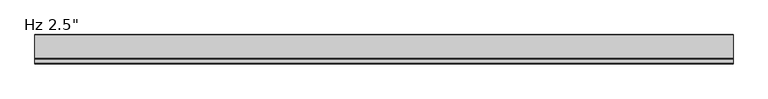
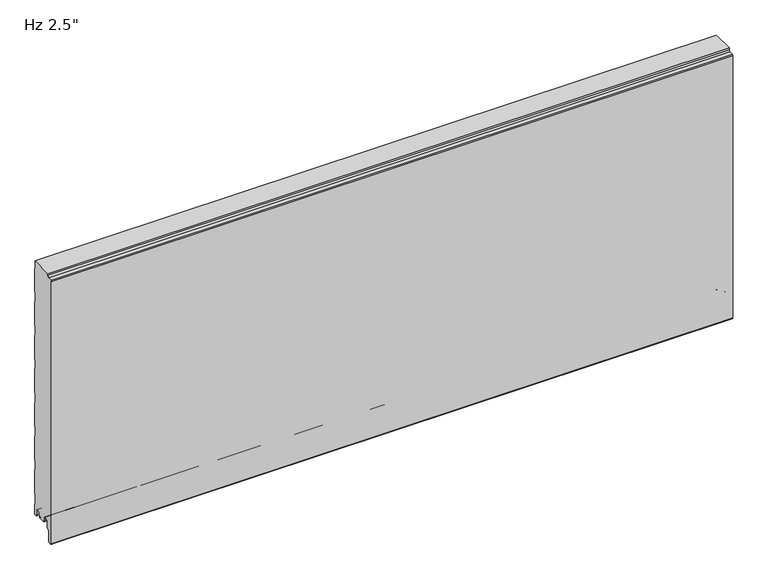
"""IFC4 building model written with IfcOpenShell, lengths in millimetres: plate geometry."""

import ifcopenshell
import ifcopenshell.guid

model = None  # the IFC model being written
_history = None  # IfcOwnerHistory: only IFC2X3 demands one
_inside = {}  # id of a spatial element -> (the spatial element, [elements in it])
_under = {}  # id of a project, library or spatial element -> (it, [spatial elements below it])
_declared = {}  # id of a project -> (the project, [libraries it declares])
_typed = {}  # id of a type object -> (the type object, [elements of that type])
_made_of = {}  # id of a material, layer set ... -> (it, [elements and type objects made of it])


def new_model(schema):
    """Start an empty IFC model of exactly this schema.

    Asked for "IFC4X3", IfcOpenShell would pick the latest addendum, in which some entities
    have other attributes; the version numbers below select the first issue.
    IFC2X3 requires an IfcOwnerHistory on every rooted entity: one is made here for all.
    """
    global model, _history
    if schema == "IFC4X3":
        model = ifcopenshell.file(schema_version=(4, 3, 0, 0))
    else:
        model = ifcopenshell.file(schema=schema)
    _inside.clear()
    _under.clear()
    _declared.clear()
    _typed.clear()
    _made_of.clear()
    _history = None
    if model.schema == "IFC2X3":
        org = make("IfcOrganization", Name="unknown")
        user = make(
            "IfcPersonAndOrganization",
            ThePerson=make("IfcPerson", FamilyName="unknown"),
            TheOrganization=org,
        )
        app = make(
            "IfcApplication",
            ApplicationDeveloper=org,
            Version="unknown",
            ApplicationFullName="unknown",
            ApplicationIdentifier="unknown",
        )
        _history = make(
            "IfcOwnerHistory",
            OwningUser=user,
            OwningApplication=app,
            ChangeAction="ADDED",
            CreationDate=0,
        )
    return model


def make(cls, **values):
    """One entity of the class cls with the attributes given. An attribute that is None is left unset."""
    return model.create_entity(
        cls, **{name: value for name, value in values.items() if value is not None}
    )


def rooted(cls, **values):
    """An entity with a GlobalId (a new one), such as an element, a storey or a relation."""
    return make(cls, GlobalId=ifcopenshell.guid.new(), OwnerHistory=_history, **values)


def si_unit(unit_type, name, prefix=None):
    """IfcSIUnit, for example si_unit("LENGTHUNIT", "METRE", prefix="MILLI")."""
    return make("IfcSIUnit", UnitType=unit_type, Prefix=prefix, Name=name)


def assignment(units):
    """IfcUnitAssignment: the units of a project."""
    return None if units is None else make("IfcUnitAssignment", Units=units)


def point(xyz):
    """IfcCartesianPoint."""
    return None if xyz is None else make("IfcCartesianPoint", Coordinates=xyz)


def direction(xyz):
    """IfcDirection."""
    return None if xyz is None else make("IfcDirection", DirectionRatios=xyz)


def frame(location, z_axis=None, x_axis=None):
    """IfcAxis2Placement3D, a coordinate frame: its origin and axes. An axis left out is left unset."""
    return make(
        "IfcAxis2Placement3D",
        Location=point(location),
        Axis=direction(z_axis),
        RefDirection=direction(x_axis),
    )


def origin():
    """The frame at (0, 0, 0) with its axes left unset."""
    return frame((0.0, 0.0, 0.0))


def place(relative_to, where):
    """IfcLocalPlacement: puts the frame where relative to a parent placement (None: the world)."""
    return make(
        "IfcLocalPlacement", PlacementRelTo=relative_to, RelativePlacement=where
    )


def context(
    kind, dimensions, precision=None, world=None, true_north=None, identifier=None
):
    """IfcGeometricRepresentationContext, for example the 3D "Model" context."""
    return make(
        "IfcGeometricRepresentationContext",
        ContextIdentifier=identifier,
        ContextType=kind,
        CoordinateSpaceDimension=dimensions,
        Precision=precision,
        WorldCoordinateSystem=world,
        TrueNorth=true_north,
    )


def project(units=None, contexts=None):
    """IfcProject with its units and contexts."""
    return rooted(
        "IfcProject",
        Name="project",
        RepresentationContexts=contexts,
        UnitsInContext=assignment(units),
    )


def spatial(cls, under=None, at=None, **own):
    """A site, building, storey or space (cls), placed at a placement, below another one or the project."""
    s = rooted(cls, ObjectPlacement=at, **own)
    if under is not None:
        _under.setdefault(under.id(), (under, []))[1].append(s)
    return s


def polyline(points):
    """IfcPolyline through the points."""
    return make("IfcPolyline", Points=[point(p) for p in points])


def circle_curve(where, radius):
    """IfcCircle in the frame where."""
    return make("IfcCircle", Position=where, Radius=radius)


def shape(context_of_items, identifier, shape_type, items):
    """IfcShapeRepresentation: the items that make up one representation, for example the "Body"."""
    return make(
        "IfcShapeRepresentation",
        ContextOfItems=context_of_items,
        RepresentationIdentifier=identifier,
        RepresentationType=shape_type,
        Items=items,
    )


def source(mapping_origin, context_of_items, identifier, shape_type, items):
    """IfcRepresentationMap: a shape defined once, which mapped items show again and again."""
    return make(
        "IfcRepresentationMap",
        MappingOrigin=mapping_origin,
        MappedRepresentation=shape(context_of_items, identifier, shape_type, items),
    )


def transform(
    local_origin,
    x_axis=None,
    y_axis=None,
    z_axis=None,
    scale=None,
    scale2=None,
    scale3=None,
    uniform=True,
):
    """IfcCartesianTransformationOperator3D, or its non-uniform kind. x_axis, y_axis, z_axis: its Axis1, 2, 3."""
    if uniform:
        return make(
            "IfcCartesianTransformationOperator3D",
            Axis1=direction(x_axis),
            Axis2=direction(y_axis),
            LocalOrigin=point(local_origin),
            Scale=scale,
            Axis3=direction(z_axis),
        )
    return make(
        "IfcCartesianTransformationOperator3DnonUniform",
        Axis1=direction(x_axis),
        Axis2=direction(y_axis),
        LocalOrigin=point(local_origin),
        Scale=scale,
        Axis3=direction(z_axis),
        Scale2=scale2,
        Scale3=scale3,
    )


def mapped(mapping_source, mapping_target):
    """IfcMappedItem: shows the shape of a source again, moved by a transform."""
    return make(
        "IfcMappedItem", MappingSource=mapping_source, MappingTarget=mapping_target
    )


def made_of(thing, what):
    """Note that an element or type object is made of a material, layer set ...; save() writes the relation."""
    if what is not None:
        _made_of.setdefault(what.id(), (what, []))[1].append(thing)
    return thing


def element(
    cls,
    number,
    at=None,
    inside=None,
    cuts=None,
    type_object=None,
    material=None,
    context=None,
    identifier="Body",
    shape_type=None,
    held_by="IfcProductDefinitionShape",
    body=None,
    shapes=None,
    **own,
):
    """One element of the class cls, such as IfcWall. Its Tag is "e" and its number.

    at: its placement. inside: the storey or other place that contains it. cuts: it is an
    opening in that element (IfcRelVoidsElement). A single representation is given by context,
    identifier, shape_type and body (its items); several are given by shapes. held_by: the class
    of the entity that holds the representations. save() writes the other relations.
    """
    e = rooted(cls, Tag="e%d" % number, ObjectPlacement=at, **own)
    if body is not None:
        shapes = [shape(context, identifier, shape_type, body)]
    if shapes is not None:
        e.Representation = make(held_by, Representations=shapes)
    if inside is not None:
        _inside.setdefault(inside.id(), (inside, []))[1].append(e)
    if cuts is not None:
        rooted(
            "IfcRelVoidsElement", RelatingBuildingElement=cuts, RelatedOpeningElement=e
        )
    if type_object is not None:
        _typed.setdefault(type_object.id(), (type_object, []))[1].append(e)
    return made_of(e, material)


def aggregate(whole, parts):
    """IfcRelAggregates: a whole, such as a stair, and the parts it consists of."""
    return rooted("IfcRelAggregates", RelatingObject=whole, RelatedObjects=parts)


def save(model, path):
    """Write the relations noted so far, then the file.

    IfcRelAggregates (storeys below a building ...), IfcRelContainedInSpatialStructure (elements
    in a storey), IfcRelDefinesByType, IfcRelAssociatesMaterial and IfcRelDeclares: one each for
    every whole, place, type object, material and project.
    """
    for whole, parts in _under.values():
        aggregate(whole, parts)
    for where, things in _inside.values():
        rooted(
            "IfcRelContainedInSpatialStructure",
            RelatedElements=things,
            RelatingStructure=where,
        )
    for kind, things in _typed.values():
        rooted("IfcRelDefinesByType", RelatedObjects=things, RelatingType=kind)
    for what, things in _made_of.values():
        rooted("IfcRelAssociatesMaterial", RelatedObjects=things, RelatingMaterial=what)
    for by, libraries in _declared.values():
        rooted("IfcRelDeclares", RelatingContext=by, RelatedDefinitions=libraries)
    model.write(path)


def plane_surface(at):
    """IfcPlane: the flat surface through the origin of the frame at, square to its z axis."""
    return make("IfcPlane", Position=at)


def cylinder_surface(at, radius):
    """IfcCylindricalSurface: all points at the distance radius from the z axis of the frame at."""
    return make("IfcCylindricalSurface", Position=at, Radius=radius)


def revolved_surface(curve, axis_point, axis_direction):
    """IfcSurfaceOfRevolution: the curve turned about the line through axis_point along axis_direction."""
    return make(
        "IfcSurfaceOfRevolution",
        SweptCurve=make("IfcArbitraryOpenProfileDef", ProfileType="CURVE", Curve=curve),
        AxisPosition=make("IfcAxis1Placement", Location=point(axis_point), Axis=direction(axis_direction)),
    )


def advanced_brep(points, edges, surfaces, faces):
    """IfcAdvancedBrep: a solid bounded by faces that lie on surfaces and meet in shared edges.

    An edge is (start, end): straight between two places in points (the first is 0);
    or (start, end, curve); or (start, end, curve, False) where it runs against its curve.
    A face is (place in surfaces, loops), or (place, loops, False) where it looks against
    its surface's normal. A loop lists edges by number (the first is 1), with a minus sign
    where the edge is run from its end to its start. The first loop is the outer one.
    """
    corners = [point(p) for p in points]
    vertices = [make("IfcVertexPoint", VertexGeometry=c) for c in corners]
    made = []
    for start, end, *more in edges:
        made.append(
            make(
                "IfcEdgeCurve",
                EdgeStart=vertices[start],
                EdgeEnd=vertices[end],
                EdgeGeometry=more[0] if more else make("IfcPolyline", Points=[corners[start], corners[end]]),
                SameSense=more[1] if len(more) > 1 else True,
            )
        )
    hull = []
    for where, loops, *sense in faces:
        bounds = []
        for j, loop in enumerate(loops):
            ring = [make("IfcOrientedEdge", EdgeElement=made[abs(k) - 1], Orientation=k > 0) for k in loop]
            bounds.append(
                make(
                    "IfcFaceOuterBound" if j == 0 else "IfcFaceBound",
                    Bound=make("IfcEdgeLoop", EdgeList=ring),
                    Orientation=True,
                )
            )
        hull.append(make("IfcAdvancedFace", Bounds=bounds, FaceSurface=surfaces[where], SameSense=sense[0] if sense else True))
    return make("IfcAdvancedBrep", Outer=make("IfcClosedShell", CfsFaces=hull))


def plate_73322cd4(model_context):
    return source(origin(), model_context, "Body", "AdvancedBrep", [
        advanced_brep(
        [(-730.0, -35.1708959, 1.0316999), (-730.0, -34.0014212, 2.2328239), (-730.0, -34.0014212, 5.9912173), (-730.0, -35.3999001, 5.9912173), (-730.0, -35.3999001, 8.6903283), (-730.0, -38.7498954, 12.0403236), (-730.0, -43.1498866, 12.0403236), (-730.0, -46.4998819, 8.6903283), (-730.0, -46.4998819, -3.1205608), (-730.0, -46.9977988, -4.3226385), (-730.0, -52.4998699, -9.8247096), (-730.0, -52.4998699, -31.9198392), (-730.0, -54.7184719, -34.5765709), (-730.0, -59.7002927, -35.0125699), (-730.0, -62.4946177, -32.4521176), (-730.0, -62.5000209, 561.115622), (-730.0, -60.7149468, 563.0669057), (-730.0, -52.25397, 563.821161), (-730.0, -49.4906671, 566.9653654), (-730.0, -49.4906671, 571.2), (-730.0, -2.2002516, 571.2), (-730.0, -2.2002516, 555.8186019), (-730.0, -1.0000209, 554.4329689), (-730.0, -1.0000209, 500.3795535), (-730.0, -2.2002516, 498.9939206), (-730.0, -2.2002516, 479.6187543), (-730.0, -1.0000209, 478.2331213), (-730.0, -1.0000209, 424.1797059), (-730.0, -2.2002516, 422.794073), (-730.0, -2.2002516, 403.4189067), (-730.0, -1.0000209, 402.0332737), (-730.0, -1.0000209, 347.9798583), (-730.0, -2.2002516, 346.5942254), (-730.0, -2.2002516, 327.2190591), (-730.0, -1.0000209, 325.8334261), (-730.0, -1.0000209, 271.7800107), (-730.0, -2.2002516, 270.3943778), (-730.0, -2.2002516, 251.0192115), (-730.0, -1.0000209, 249.6335785), (-730.0, -1.0000209, 195.5801631), (-730.0, -2.2002516, 194.1945302), (-730.0, -2.2002516, 174.8193639), (-730.0, -1.0000209, 173.4337309), (-730.0, -1.0000209, 119.3803155), (-730.0, -2.2002516, 117.9946826), (-730.0, -2.2002516, 98.6195163), (-730.0, -1.0000209, 97.2338833), (-730.0, -1.0000209, 43.1804679), (-730.0, -2.2002516, 41.794835), (-730.0, -2.2002516, 22.4196687), (-730.0, -1.0000126, 21.034026), (-730.0, -1.0000126, -3.4662506), (-730.0, -5.2315599, -3.4662506), (-730.0, -7.001554, -1.6962564), (-730.0, -7.001554, 8.7237222), (-730.0, -10.3015499, 12.023718), (-730.0, -14.7015411, 12.023718), (-730.0, -18.0015368, 8.7237223), (-730.0, -18.0015368, 6.0315125), (-730.0, -19.0015314, 6.0315125), (-730.0, -19.0015314, 2.0313089), (-730.0, -18.0015401, 1.0313117), (-730.0, -19.0328517, 0.0), (-730.0, -34.139196, 0.0), (730.0, -35.1708959, 1.0316999), (730.0, -34.139196, 0.0), (730.0, -19.0328517, 0.0), (730.0, -18.0015401, 1.0313117), (730.0, -19.0015314, 2.0313089), (730.0, -19.0015314, 6.0315125), (730.0, -18.0015368, 6.0315125), (730.0, -18.0015368, 8.7237223), (730.0, -14.7015411, 12.023718), (730.0, -10.3015499, 12.023718), (730.0, -7.001554, 8.7237222), (730.0, -7.001554, -1.6962564), (730.0, -5.2315599, -3.4662506), (730.0, -1.0000126, -3.4662506), (730.0, -1.0000126, 21.034026), (730.0, -2.2002516, 22.4196687), (730.0, -2.2002516, 41.794835), (730.0, -1.0000209, 43.1804679), (730.0, -1.0000209, 97.2338833), (730.0, -2.2002516, 98.6195163), (730.0, -2.2002516, 117.9946826), (730.0, -1.0000209, 119.3803155), (730.0, -1.0000209, 173.4337309), (730.0, -2.2002516, 174.8193639), (730.0, -2.2002516, 194.1945302), (730.0, -1.0000209, 195.5801631), (730.0, -1.0000209, 249.6335785), (730.0, -2.2002516, 251.0192115), (730.0, -2.2002516, 270.3943778), (730.0, -1.0000209, 271.7800107), (730.0, -1.0000209, 325.8334261), (730.0, -2.2002516, 327.2190591), (730.0, -2.2002516, 346.5942254), (730.0, -1.0000209, 347.9798583), (730.0, -1.0000209, 402.0332737), (730.0, -2.2002516, 403.4189067), (730.0, -2.2002516, 422.794073), (730.0, -1.0000209, 424.1797059), (730.0, -1.0000209, 478.2331213), (730.0, -2.2002516, 479.6187543), (730.0, -2.2002516, 498.9939206), (730.0, -1.0000209, 500.3795535), (730.0, -1.0000209, 554.4329689), (730.0, -2.2002516, 555.8186019), (730.0, -2.2002516, 571.2), (730.0, -49.4906671, 571.2), (730.0, -49.4906671, 566.9653654), (730.0, -52.25397, 563.821161), (730.0, -60.7149468, 563.0669057), (730.0, -62.5000209, 561.115622), (730.0, -62.5000209, -32.4521176), (730.0, -59.7002927, -35.0125699), (730.0, -54.7184719, -34.5765709), (730.0, -52.4998699, -31.9198392), (730.0, -52.4998699, -9.8247096), (730.0, -46.9977988, -4.3226385), (730.0, -46.4998819, -3.1205608), (730.0, -46.4998819, 8.6903283), (730.0, -43.1498866, 12.0403236), (730.0, -38.7498954, 12.0403236), (730.0, -35.3999001, 8.6903283), (730.0, -35.3999001, 5.9912173), (730.0, -34.0014212, 5.9912173), (730.0, -34.0014212, 2.2328239)],
        [
            (0, 1, circle_curve(frame((-730.0, -35.2014178, 2.2313092), z_axis=(1.0, 0.0, 0.0), x_axis=(0.0, 0.0, -1.0)), 1.1999976)),
            (1, 2),
            (2, 3),
            (3, 4),
            (4, 5, circle_curve(frame((-730.0, -38.7498954, 8.6903283), z_axis=(1.0, 0.0, 0.0), x_axis=(0.0, 0.0, -1.0)), 3.3499953)),
            (5, 6),
            (6, 7, circle_curve(frame((-730.0, -43.1498866, 8.6903283), z_axis=(1.0, 0.0, 0.0), x_axis=(0.0, 0.0, -1.0)), 3.3499953)),
            (7, 8),
            (8, 9, circle_curve(frame((-730.0, -48.1998765, -3.1205608), z_axis=(-1.0, 0.0, 0.0), x_axis=(0.0, 0.0, -1.0)), 1.6999946)),
            (9, 10),
            (10, 11),
            (11, 12, circle_curve(frame((-730.0, -55.1998625, -31.9198392), z_axis=(-1.0, 0.0, 0.0), x_axis=(0.0, 0.0, -1.0)), 2.6999926)),
            (12, 13),
            (13, 14, circle_curve(frame((-730.0, -59.9243784, -32.4521176), z_axis=(-1.0, 0.0, 0.0), x_axis=(0.0, 0.0, -1.0)), 2.5702393)),
            (14, 15),
            (15, 16, circle_curve(frame((-730.0, -60.5409993, 561.115622), z_axis=(-1.0, 0.0, 0.0), x_axis=(0.0, 0.0, -1.0)), 1.9590216)),
            (16, 17),
            (17, 18, circle_curve(frame((-730.0, -52.518053, 566.8396267), z_axis=(1.0, 0.0, 0.0), x_axis=(0.0, 0.0, -1.0)), 3.0299959)),
            (18, 19),
            (19, 20),
            (20, 21),
            (21, 22),
            (22, 23),
            (23, 24),
            (24, 25),
            (25, 26),
            (26, 27),
            (27, 28),
            (28, 29),
            (29, 30),
            (30, 31),
            (31, 32),
            (32, 33),
            (33, 34),
            (34, 35),
            (35, 36),
            (36, 37),
            (37, 38),
            (38, 39),
            (39, 40),
            (40, 41),
            (41, 42),
            (42, 43),
            (43, 44),
            (44, 45),
            (45, 46),
            (46, 47),
            (47, 48),
            (48, 49),
            (49, 50),
            (50, 51),
            (51, 52),
            (52, 53, circle_curve(frame((-730.0, -5.2315599, -1.6962564), z_axis=(-1.0, 0.0, 0.0), x_axis=(0.0, 0.0, 1.0)), 1.7699942)),
            (53, 54),
            (54, 55, circle_curve(frame((-730.0, -10.3015499, 8.7237222), z_axis=(1.0, 0.0, 0.0), x_axis=(0.0, 0.0, 1.0)), 3.2999959)),
            (55, 56),
            (56, 57, circle_curve(frame((-730.0, -14.7015411, 8.7237223), z_axis=(1.0, 0.0, 0.0), x_axis=(0.0, 0.0, 1.0)), 3.2999957)),
            (57, 58),
            (58, 59),
            (59, 60),
            (60, 61, circle_curve(frame((-730.0, -18.0015342, 2.0313089), z_axis=(1.0, 0.0, 0.0), x_axis=(0.0, 0.0, 1.0)), 0.9999972)),
            (61, 62),
            (62, 63),
            (63, 0),
            (64, 65),
            (65, 66),
            (66, 67),
            (67, 68, circle_curve(frame((730.0, -18.0015342, 2.0313089), z_axis=(-1.0, 0.0, 0.0), x_axis=(0.0, 0.0, 1.0)), 0.9999972)),
            (68, 69),
            (69, 70),
            (70, 71),
            (71, 72, circle_curve(frame((730.0, -14.7015411, 8.7237223), z_axis=(-1.0, 0.0, 0.0), x_axis=(0.0, 0.0, 1.0)), 3.2999957)),
            (72, 73),
            (73, 74, circle_curve(frame((730.0, -10.3015499, 8.7237222), z_axis=(-1.0, 0.0, 0.0), x_axis=(0.0, 0.0, 1.0)), 3.2999959)),
            (74, 75),
            (75, 76, circle_curve(frame((730.0, -5.2315599, -1.6962564), z_axis=(1.0, 0.0, 0.0), x_axis=(0.0, 0.0, 1.0)), 1.7699942)),
            (76, 77),
            (77, 78),
            (78, 79),
            (79, 80),
            (80, 81),
            (81, 82),
            (82, 83),
            (83, 84),
            (84, 85),
            (85, 86),
            (86, 87),
            (87, 88),
            (88, 89),
            (89, 90),
            (90, 91),
            (91, 92),
            (92, 93),
            (93, 94),
            (94, 95),
            (95, 96),
            (96, 97),
            (97, 98),
            (98, 99),
            (99, 100),
            (100, 101),
            (101, 102),
            (102, 103),
            (103, 104),
            (104, 105),
            (105, 106),
            (106, 107),
            (107, 108),
            (108, 109),
            (109, 110),
            (110, 111, circle_curve(frame((730.0, -52.518053, 566.8396267), z_axis=(-1.0, 0.0, 0.0), x_axis=(0.0, 0.0, -1.0)), 3.0299959)),
            (111, 112),
            (112, 113, circle_curve(frame((730.0, -60.5409993, 561.115622), z_axis=(1.0, 0.0, 0.0), x_axis=(0.0, 0.0, -1.0)), 1.9590216)),
            (113, 114),
            (114, 115, circle_curve(frame((730.0, -59.9243784, -32.4521176), z_axis=(1.0, 0.0, 0.0), x_axis=(0.0, 0.0, -1.0)), 2.5702393)),
            (115, 116),
            (116, 117, circle_curve(frame((730.0, -55.1998625, -31.9198392), z_axis=(1.0, 0.0, 0.0), x_axis=(0.0, 0.0, -1.0)), 2.6999926)),
            (117, 118),
            (118, 119),
            (119, 120, circle_curve(frame((730.0, -48.1998765, -3.1205608), z_axis=(1.0, 0.0, 0.0), x_axis=(0.0, 0.0, -1.0)), 1.6999946)),
            (120, 121),
            (121, 122, circle_curve(frame((730.0, -43.1498866, 8.6903283), z_axis=(-1.0, 0.0, 0.0), x_axis=(0.0, 0.0, -1.0)), 3.3499953)),
            (122, 123),
            (123, 124, circle_curve(frame((730.0, -38.7498954, 8.6903283), z_axis=(-1.0, 0.0, 0.0), x_axis=(0.0, 0.0, -1.0)), 3.3499953)),
            (124, 125),
            (125, 126),
            (126, 127),
            (127, 64, circle_curve(frame((730.0, -35.2014178, 2.2313092), z_axis=(-1.0, 0.0, 0.0), x_axis=(0.0, 0.0, -1.0)), 1.1999976)),
            (63, 65),
            (64, 0),
            (62, 66),
            (14, 114),
            (113, 15),
            (13, 115),
            (12, 116),
            (11, 117),
            (10, 118),
            (9, 119),
            (8, 120),
            (7, 121),
            (6, 122),
            (5, 123),
            (4, 124),
            (3, 125),
            (2, 126),
            (1, 127),
            (61, 67),
            (60, 68),
            (59, 69),
            (58, 70),
            (57, 71),
            (56, 72),
            (55, 73),
            (54, 74),
            (53, 75),
            (52, 76),
            (51, 77),
            (49, 79),
            (78, 50),
            (48, 80),
            (47, 81),
            (46, 82),
            (45, 83),
            (44, 84),
            (43, 85),
            (42, 86),
            (41, 87),
            (40, 88),
            (39, 89),
            (38, 90),
            (37, 91),
            (36, 92),
            (35, 93),
            (34, 94),
            (33, 95),
            (32, 96),
            (31, 97),
            (30, 98),
            (19, 109),
            (108, 20),
            (18, 110),
            (17, 111),
            (16, 112),
            (29, 99),
            (28, 100),
            (27, 101),
            (26, 102),
            (25, 103),
            (24, 104),
            (23, 105),
            (22, 106),
            (21, 107),
        ],
        [
            plane_surface(frame((-730.0, -62.5000209, 304.8), z_axis=(-1.0, 0.0, 0.0), x_axis=(0.0, -1.0, 0.0))),
            plane_surface(frame((730.0, -62.5000209, 304.8), z_axis=(1.0, 0.0, 0.0), x_axis=(0.0, -1.0, 0.0))),
            plane_surface(frame((-730.0, -35.1708959, 1.0316999), z_axis=(0.0, -0.7071067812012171, -0.707106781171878), x_axis=(1.0, 0.0, 0.0))),
            plane_surface(frame((-730.0, -34.139196, 0.0), z_axis=(0.0, 0.0, -1.0), x_axis=(1.0, 0.0, 0.0))),
            plane_surface(frame((-730.0, -62.5000209, 561.115622), z_axis=(0.0, -1.0, 0.0), x_axis=(1.0, 0.0, 0.0))),
            cylinder_surface(frame((-730.0, -59.9243784, -32.4521176), z_axis=(-1.0, 0.0, 0.0), x_axis=(0.0, 0.0, -1.0)), 2.5702393),
            plane_surface(frame((-730.0, -59.7002927, -35.0125699), z_axis=(0.0, 0.08718474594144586, -0.9961921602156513), x_axis=(1.0, 0.0, 0.0))),
            cylinder_surface(frame((-730.0, -55.1998625, -31.9198392), z_axis=(-1.0, 0.0, 0.0), x_axis=(0.0, 0.0, -1.0)), 2.6999926),
            plane_surface(frame((-730.0, -52.4998699, -31.9198392), z_axis=(0.0, 1.0, 0.0), x_axis=(1.0, 0.0, 0.0))),
            plane_surface(frame((-730.0, -52.4998699, -9.8247096), z_axis=(0.0, 0.7071067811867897, -0.7071067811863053), x_axis=(1.0, 0.0, 0.0))),
            cylinder_surface(frame((-730.0, -48.1998765, -3.1205608), z_axis=(-1.0, 0.0, 0.0), x_axis=(0.0, 0.0, -1.0)), 1.6999946),
            plane_surface(frame((-730.0, -46.4998819, -3.1205608), z_axis=(0.0, 1.0, 0.0), x_axis=(1.0, 0.0, 0.0))),
            revolved_surface(polyline([(730.0, -43.1498866, 5.340332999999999), (-730.0, -43.1498866, 5.340332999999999)]), (-730.0, -43.1498866, 8.6903283), (1.0, 0.0, 0.0)),
            plane_surface(frame((-730.0, -43.1498866, 12.0403236), z_axis=(0.0, 0.0, -1.0), x_axis=(1.0, 0.0, 0.0))),
            revolved_surface(polyline([(730.0, -38.7498954, 5.340332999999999), (-730.0, -38.7498954, 5.340332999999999)]), (-730.0, -38.7498954, 8.6903283), (1.0, 0.0, 0.0)),
            plane_surface(frame((-730.0, -35.3999001, 8.6903283), z_axis=(0.0, -1.0, 0.0), x_axis=(1.0, 0.0, 0.0))),
            plane_surface(frame((-730.0, -35.3999001, 5.9912173), z_axis=(0.0, 0.0, -1.0), x_axis=(1.0, 0.0, 0.0))),
            plane_surface(frame((-730.0, -34.0014212, 5.9912173), z_axis=(0.0, -1.0, 0.0), x_axis=(1.0, 0.0, 0.0))),
            revolved_surface(polyline([(730.0, -35.2014178, 1.0313116), (-730.0, -35.2014178, 1.0313116)]), (-730.0, -35.2014178, 2.2313092), (1.0, 0.0, 0.0)),
            plane_surface(frame((-730.0, -19.0328517, 0.0), z_axis=(0.0, 0.7071067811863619, -0.7071067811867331), x_axis=(1.0, 0.0, 0.0))),
            revolved_surface(polyline([(730.0, -18.0015342, 3.0313061), (-730.0, -18.0015342, 3.0313061)]), (-730.0, -18.0015342, 2.0313089), (1.0, 0.0, 0.0)),
            plane_surface(frame((-730.0, -19.0015314, 2.0313089), z_axis=(0.0, 1.0, 0.0), x_axis=(1.0, 0.0, 0.0))),
            plane_surface(frame((-730.0, -19.0015314, 6.0315125), z_axis=(0.0, 0.0, -1.0), x_axis=(1.0, 0.0, 0.0))),
            plane_surface(frame((-730.0, -18.0015368, 6.0315125), z_axis=(0.0, 1.0, 0.0), x_axis=(1.0, 0.0, 0.0))),
            revolved_surface(polyline([(730.0, -14.7015411, 12.023718), (-730.0, -14.7015411, 12.023718)]), (-730.0, -14.7015411, 8.7237223), (1.0, 0.0, 0.0)),
            plane_surface(frame((-730.0, -14.7015411, 12.023718), z_axis=(0.0, 0.0, -1.0), x_axis=(1.0, 0.0, 0.0))),
            revolved_surface(polyline([(730.0, -10.3015499, 12.0237181), (-730.0, -10.3015499, 12.0237181)]), (-730.0, -10.3015499, 8.7237222), (1.0, 0.0, 0.0)),
            plane_surface(frame((-730.0, -7.001554, 8.7237222), z_axis=(0.0, -1.0, 0.0), x_axis=(1.0, 0.0, 0.0))),
            cylinder_surface(frame((-730.0, -5.2315599, -1.6962564), z_axis=(-1.0, 0.0, 0.0), x_axis=(0.0, 0.0, 1.0)), 1.7699942),
            plane_surface(frame((-730.0, -5.2315599, -3.4662506), z_axis=(0.0, 0.0, -1.0), x_axis=(1.0, 0.0, 0.0))),
            plane_surface(frame((-730.0, -1.0000126, 21.034026), z_axis=(0.0, 0.7558648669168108, 0.6547276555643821), x_axis=(1.0, 0.0, 0.0))),
            plane_surface(frame((-730.0, -1.0000126, -3.4662506), z_axis=(0.0, 1.0, 0.0), x_axis=(1.0, 0.0, 0.0))),
            plane_surface(frame((-730.0, -2.2002516, 22.4196687), z_axis=(0.0, 1.0, 0.0), x_axis=(1.0, 0.0, 0.0))),
            plane_surface(frame((-730.0, -2.2002516, 41.794835), z_axis=(0.0, 0.7558648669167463, -0.6547276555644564), x_axis=(1.0, 0.0, 0.0))),
            plane_surface(frame((-730.0, -1.0000209, 43.1804679), z_axis=(0.0, 1.0, 0.0), x_axis=(1.0, 0.0, 0.0))),
            plane_surface(frame((-730.0, -1.0000209, 97.2338833), z_axis=(0.0, 0.7558648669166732, 0.6547276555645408), x_axis=(1.0, 0.0, 0.0))),
            plane_surface(frame((-730.0, -2.2002516, 98.6195163), z_axis=(0.0, 1.0, 0.0), x_axis=(1.0, 0.0, 0.0))),
            plane_surface(frame((-730.0, -2.2002516, 117.9946826), z_axis=(0.0, 0.7558648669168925, -0.6547276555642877), x_axis=(1.0, 0.0, 0.0))),
            plane_surface(frame((-730.0, -1.0000209, 119.3803155), z_axis=(0.0, 1.0, 0.0), x_axis=(1.0, 0.0, 0.0))),
            plane_surface(frame((-730.0, -1.0000209, 173.4337309), z_axis=(0.0, 0.7558648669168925, 0.6547276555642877), x_axis=(1.0, 0.0, 0.0))),
            plane_surface(frame((-730.0, -2.2002516, 174.8193639), z_axis=(0.0, 1.0, 0.0), x_axis=(1.0, 0.0, 0.0))),
            plane_surface(frame((-730.0, -2.2002516, 194.1945302), z_axis=(0.0, 0.7558648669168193, -0.6547276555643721), x_axis=(1.0, 0.0, 0.0))),
            plane_surface(frame((-730.0, -1.0000209, 195.5801631), z_axis=(0.0, 1.0, 0.0), x_axis=(1.0, 0.0, 0.0))),
            plane_surface(frame((-730.0, -1.0000209, 249.6335785), z_axis=(0.0, 0.7558648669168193, 0.6547276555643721), x_axis=(1.0, 0.0, 0.0))),
            plane_surface(frame((-730.0, -2.2002516, 251.0192115), z_axis=(0.0, 1.0, 0.0), x_axis=(1.0, 0.0, 0.0))),
            plane_surface(frame((-730.0, -2.2002516, 270.3943778), z_axis=(0.0, 0.7558648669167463, -0.6547276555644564), x_axis=(1.0, 0.0, 0.0))),
            plane_surface(frame((-730.0, -1.0000209, 271.7800107), z_axis=(0.0, 1.0, 0.0), x_axis=(1.0, 0.0, 0.0))),
            plane_surface(frame((-730.0, -1.0000209, 325.8334261), z_axis=(0.0, 0.7558648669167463, 0.6547276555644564), x_axis=(1.0, 0.0, 0.0))),
            plane_surface(frame((-730.0, -2.2002516, 327.2190591), z_axis=(0.0, 1.0, 0.0), x_axis=(1.0, 0.0, 0.0))),
            plane_surface(frame((-730.0, -2.2002516, 346.5942254), z_axis=(0.0, 0.7558648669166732, -0.6547276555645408), x_axis=(1.0, 0.0, 0.0))),
            plane_surface(frame((-730.0, -1.0000209, 347.9798583), z_axis=(0.0, 1.0, 0.0), x_axis=(1.0, 0.0, 0.0))),
            plane_surface(frame((730.0, 9.9999791, 571.2), z_axis=(0.0, 0.0, 1.0), x_axis=(-1.0, 0.0, 0.0))),
            plane_surface(frame((-730.0, -49.4906671, 577.0583308), z_axis=(0.0, -1.0, 0.0), x_axis=(1.0, 0.0, 0.0))),
            revolved_surface(polyline([(730.0, -52.518053, 563.8096308), (-730.0, -52.518053, 563.8096308)]), (-730.0, -52.518053, 566.8396267), (1.0, 0.0, 0.0)),
            plane_surface(frame((-730.0, -52.25397, 563.821161), z_axis=(0.0, -0.08879306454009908, 0.9960500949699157), x_axis=(1.0, 0.0, 0.0))),
            cylinder_surface(frame((-730.0, -60.5409993, 561.115622), z_axis=(-1.0, 0.0, 0.0), x_axis=(0.0, 0.0, -1.0)), 1.9590216),
            plane_surface(frame((-730.0, -1.0000209, 402.0332737), z_axis=(0.0, 0.7558648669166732, 0.6547276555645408), x_axis=(1.0, 0.0, 0.0))),
            plane_surface(frame((-730.0, -2.2002516, 403.4189067), z_axis=(0.0, 1.0, 0.0), x_axis=(1.0, 0.0, 0.0))),
            plane_surface(frame((-730.0, -2.2002516, 422.794073), z_axis=(0.0, 0.755864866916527, -0.6547276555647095), x_axis=(1.0, 0.0, 0.0))),
            plane_surface(frame((-730.0, -1.0000209, 424.1797059), z_axis=(0.0, 1.0, 0.0), x_axis=(1.0, 0.0, 0.0))),
            plane_surface(frame((-730.0, -1.0000209, 478.2331213), z_axis=(0.0, 0.755864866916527, 0.6547276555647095), x_axis=(1.0, 0.0, 0.0))),
            plane_surface(frame((-730.0, -2.2002516, 479.6187543), z_axis=(0.0, 1.0, 0.0), x_axis=(1.0, 0.0, 0.0))),
            plane_surface(frame((-730.0, -2.2002516, 498.9939206), z_axis=(0.0, 0.755864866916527, -0.6547276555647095), x_axis=(1.0, 0.0, 0.0))),
            plane_surface(frame((-730.0, -1.0000209, 500.3795535), z_axis=(0.0, 1.0, 0.0), x_axis=(1.0, 0.0, 0.0))),
            plane_surface(frame((-730.0, -1.0000209, 554.4329689), z_axis=(0.0, 0.755864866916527, 0.6547276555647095), x_axis=(1.0, 0.0, 0.0))),
            plane_surface(frame((-730.0, -2.2002516, 555.8186019), z_axis=(0.0, 1.0, 0.0), x_axis=(1.0, 0.0, 0.0))),
        ],
        [
            (0, [[1, 2, 3, 4, 5, 6, 7, 8, 9, 10, 11, 12, 13, 14, 15, 16, 17, 18, 19, 20, 21, 22, 23, 24, 25, 26, 27, 28, 29, 30, 31, 32, 33, 34, 35, 36, 37, 38, 39, 40, 41, 42, 43, 44, 45, 46, 47, 48, 49, 50, 51, 52, 53, 54, 55, 56, 57, 58, 59, 60, 61, 62, 63, 64]]),
            (1, [[65, 66, 67, 68, 69, 70, 71, 72, 73, 74, 75, 76, 77, 78, 79, 80, 81, 82, 83, 84, 85, 86, 87, 88, 89, 90, 91, 92, 93, 94, 95, 96, 97, 98, 99, 100, 101, 102, 103, 104, 105, 106, 107, 108, 109, 110, 111, 112, 113, 114, 115, 116, 117, 118, 119, 120, 121, 122, 123, 124, 125, 126, 127, 128]]),
            (2, [[129, -65, 130, -64]]),
            (3, [[-63, 131, -66, -129]]),
            (4, [[132, -114, 133, -15]]),
            (5, [[134, -115, -132, -14]]),
            (6, [[135, -116, -134, -13]]),
            (7, [[136, -117, -135, -12]]),
            (8, [[137, -118, -136, -11]]),
            (9, [[138, -119, -137, -10]]),
            (10, [[139, -120, -138, -9]]),
            (11, [[140, -121, -139, -8]]),
            (12, [[141, -122, -140, -7]]),
            (13, [[142, -123, -141, -6]]),
            (14, [[143, -124, -142, -5]]),
            (15, [[144, -125, -143, -4]]),
            (16, [[145, -126, -144, -3]]),
            (17, [[146, -127, -145, -2]]),
            (18, [[-130, -128, -146, -1]]),
            (19, [[147, -67, -131, -62]]),
            (20, [[148, -68, -147, -61]]),
            (21, [[149, -69, -148, -60]]),
            (22, [[150, -70, -149, -59]]),
            (23, [[151, -71, -150, -58]]),
            (24, [[152, -72, -151, -57]]),
            (25, [[153, -73, -152, -56]]),
            (26, [[154, -74, -153, -55]]),
            (27, [[155, -75, -154, -54]]),
            (28, [[156, -76, -155, -53]]),
            (29, [[157, -77, -156, -52]]),
            (30, [[158, -79, 159, -50]]),
            (31, [[-159, -78, -157, -51]]),
            (32, [[160, -80, -158, -49]]),
            (33, [[161, -81, -160, -48]]),
            (34, [[162, -82, -161, -47]]),
            (35, [[163, -83, -162, -46]]),
            (36, [[164, -84, -163, -45]]),
            (37, [[165, -85, -164, -44]]),
            (38, [[166, -86, -165, -43]]),
            (39, [[167, -87, -166, -42]]),
            (40, [[168, -88, -167, -41]]),
            (41, [[169, -89, -168, -40]]),
            (42, [[170, -90, -169, -39]]),
            (43, [[171, -91, -170, -38]]),
            (44, [[172, -92, -171, -37]]),
            (45, [[173, -93, -172, -36]]),
            (46, [[174, -94, -173, -35]]),
            (47, [[175, -95, -174, -34]]),
            (48, [[176, -96, -175, -33]]),
            (49, [[177, -97, -176, -32]]),
            (50, [[178, -98, -177, -31]]),
            (51, [[179, -109, 180, -20]]),
            (52, [[-110, -179, -19, 181]]),
            (53, [[182, -111, -181, -18]]),
            (54, [[183, -112, -182, -17]]),
            (55, [[-133, -113, -183, -16]]),
            (56, [[184, -99, -178, -30]]),
            (57, [[185, -100, -184, -29]]),
            (58, [[186, -101, -185, -28]]),
            (59, [[187, -102, -186, -27]]),
            (60, [[188, -103, -187, -26]]),
            (61, [[189, -104, -188, -25]]),
            (62, [[190, -105, -189, -24]]),
            (63, [[191, -106, -190, -23]]),
            (64, [[192, -107, -191, -22]]),
            (65, [[-21, -180, -108, -192]]),
        ],
    ),
    ])


if __name__ == "__main__":
    model = new_model("IFC4")
    model_context = context("Model", 3, world=origin())
    ifc_project = project(units=[si_unit("LENGTHUNIT", "METRE", prefix="MILLI")], contexts=[model_context])
    site = spatial("IfcSite", under=ifc_project)
    building = spatial("IfcBuilding", under=site)
    placement = place(None, origin())
    plate_shape = plate_73322cd4(model_context)
    element("IfcPlate", 1, ObjectType="KIP-24-Karrier-KP-R19-CP-Hz-FL3-8in_SL : Hz 2.5\"", at=placement, inside=building, context=model_context, shape_type="MappedRepresentation", body=[
        mapped(plate_shape, transform((0.0, 0.0, 0.0), x_axis=(1.0, 0.0, 0.0), y_axis=(0.0, 1.0, 0.0), z_axis=(0.0, 0.0, 1.0))),
    ])
    save(model, "model.ifc")
